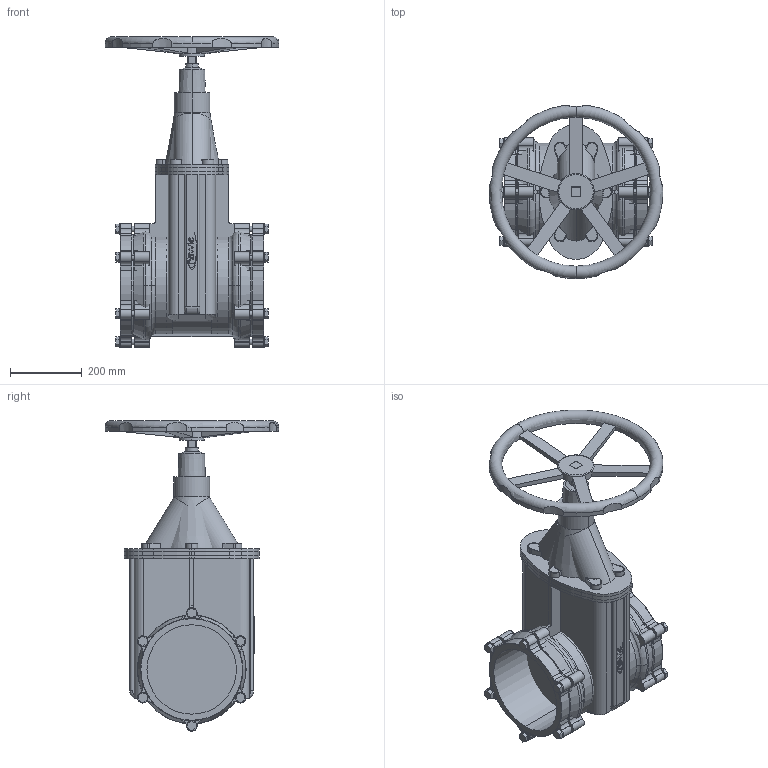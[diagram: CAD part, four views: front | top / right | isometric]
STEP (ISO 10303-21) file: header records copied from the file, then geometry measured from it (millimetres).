
FILE_DESCRIPTION(('STEP AP214'),'1');
FILE_NAME('S:/EK/USER/CAT6/3DHomepage/4040E2/4040E2-PN16-DN250-250-HANDRAD.STP','2012-04-24T11:29:38',(' '),(' '),'Spatial InterOp 3D',' ',' ');
FILE_SCHEMA(('automotive_design'));
Length unit declared in the file: millimetre
Products named in the file (117): 3D-Objekt
Bounding box: 486 x 484.36 x 867.66 mm (x, y, z)
Volume: 39075509.6 mm3; surface area: 2678134.5 mm2
Topology: 117 solids, 117 shells, 996 faces, 2265 edges, 1507 vertices
Faces by surface type: plane 580, cylinder 356, torus 42, cone 14, bspline 4
Entity records: 39159 total; most frequent: DIRECTION 5328, CARTESIAN_POINT 5223, ORIENTED_EDGE 4530, EDGE_CURVE 2265, AXIS2_PLACEMENT_3D 1964, VERTEX_POINT 1507, LINE 1400, VECTOR 1400
